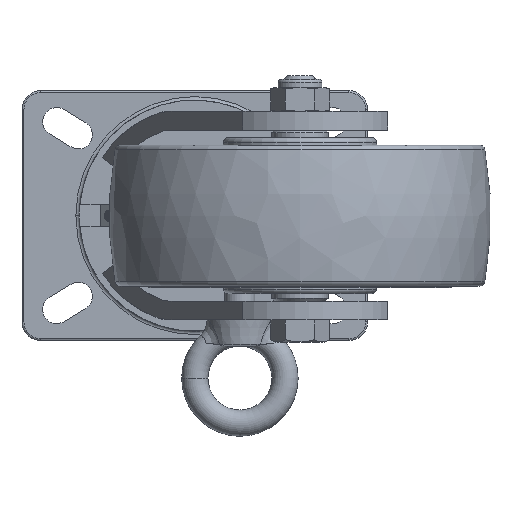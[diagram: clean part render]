
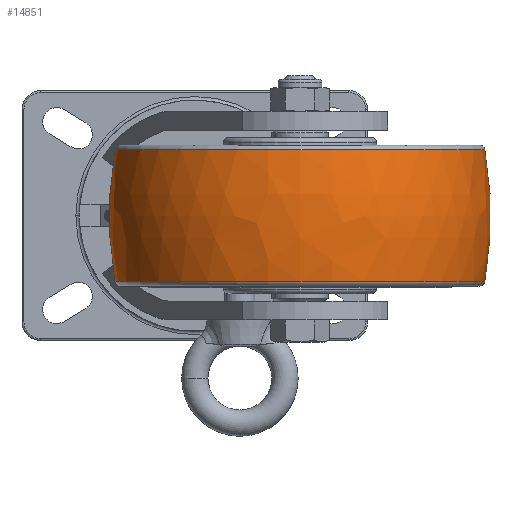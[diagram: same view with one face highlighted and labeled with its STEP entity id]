
A CAD part, front view. The second image highlights one B-rep face of the part: STEP entity #14851.
In plain terms, the highlighted free-form (B-spline) face has degree [3, 3] with [7, 4] control points.
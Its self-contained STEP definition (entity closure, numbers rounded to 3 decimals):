
#14634=CARTESIAN_POINT('',(0.,-98.5,
-0.001));
#14635=DIRECTION('',(0.,0.,-1.));
#14636=DIRECTION('',(-0.175,0.985,0.));
#14637=AXIS2_PLACEMENT_3D('',#14634,#14635,#14636);
#14649=CARTESIAN_POINT('',(-35.025,0.,0.));
#14650=DIRECTION('',(-1.,0.,0.));
#14651=DIRECTION('',(0.,1.,0.));
#14652=AXIS2_PLACEMENT_3D('',#14649,#14650,#14651);
#14654=CARTESIAN_POINT('',(0.,98.5,
0.001));
#14655=DIRECTION('',(0.,0.,1.));
#14656=DIRECTION('',(-0.175,-0.985,0.));
#14657=AXIS2_PLACEMENT_3D('',#14654,#14655,#14656);
#14659=CARTESIAN_POINT('',(35.025,0.,0.));
#14660=DIRECTION('',(1.,0.,0.));
#14661=DIRECTION('',(0.,-1.,0.));
#14662=AXIS2_PLACEMENT_3D('',#14659,#14660,#14661);
#14723=CARTESIAN_POINT('',(-35.025,98.409,
0.));
#14725=VERTEX_POINT('',#14723);
#14728=CARTESIAN_POINT('',(-35.025,-98.409,0.));
#14729=VERTEX_POINT('',#14728);
#14730=CARTESIAN_POINT('',(35.025,98.409,
0.001));
#14731=VERTEX_POINT('',#14730);
#14732=CARTESIAN_POINT('',(35.025,-98.409,
0.001));
#14733=VERTEX_POINT('',#14732);
#14815=CARTESIAN_POINT('',(-36.411,-97.964,
6.162));
#14816=CARTESIAN_POINT('',(-12.274,-102.424,
6.443));
#14817=CARTESIAN_POINT('',(12.274,-102.424,
6.443));
#14818=CARTESIAN_POINT('',(36.411,-97.964,
6.162));
#14819=CARTESIAN_POINT('',(-36.411,-101.756,
-54.124));
#14820=CARTESIAN_POINT('',(-12.274,-106.389,
-56.588));
#14821=CARTESIAN_POINT('',(12.274,-106.389,
-56.588));
#14822=CARTESIAN_POINT('',(36.411,-101.756,
-54.124));
#14823=CARTESIAN_POINT('',(-36.411,-60.406,
-98.158));
#14824=CARTESIAN_POINT('',(-12.274,-63.156,
-102.627));
#14825=CARTESIAN_POINT('',(12.274,-63.156,
-102.627));
#14826=CARTESIAN_POINT('',(36.411,-60.406,
-98.158));
#14827=CARTESIAN_POINT('',(-36.411,0.,
-98.158));
#14828=CARTESIAN_POINT('',(-12.274,0.,
-102.627));
#14829=CARTESIAN_POINT('',(12.274,0.,
-102.627));
#14830=CARTESIAN_POINT('',(36.411,0.,
-98.158));
#14831=CARTESIAN_POINT('',(-36.411,60.406,
-98.158));
#14832=CARTESIAN_POINT('',(-12.274,63.156,
-102.627));
#14833=CARTESIAN_POINT('',(12.274,63.156,
-102.627));
#14834=CARTESIAN_POINT('',(36.411,60.406,
-98.158));
#14835=CARTESIAN_POINT('',(-36.411,101.756,
-54.124));
#14836=CARTESIAN_POINT('',(-12.274,106.389,
-56.588));
#14837=CARTESIAN_POINT('',(12.274,106.389,
-56.588));
#14838=CARTESIAN_POINT('',(36.411,101.756,
-54.124));
#14839=CARTESIAN_POINT('',(-36.411,97.964,
6.162));
#14840=CARTESIAN_POINT('',(-12.274,102.424,
6.443));
#14841=CARTESIAN_POINT('',(12.274,102.424,6.443));
#14842=CARTESIAN_POINT('',(36.411,97.964,6.162));
#14843=(BOUNDED_SURFACE()B_SPLINE_SURFACE(3,3,((#14815,#14816,#14817,#14818),(
#14819,#14820,#14821,#14822),(#14823,#14824,#14825,#14826),(#14827,#14828,
#14829,#14830),(#14831,#14832,#14833,#14834),(#14835,#14836,#14837,#14838),(
#14839,#14840,#14841,#14842)),.UNSPECIFIED.,.F.,.F.,.F.)B_SPLINE_SURFACE_WITH_KNOTS((4,3,4),(4,4),(0.,1.,2.),(0.,1.),.UNSPECIFIED.)GEOMETRIC_REPRESENTATION_ITEM()RATIONAL_B_SPLINE_SURFACE(((1.197,1.184,
1.184,1.197),(0.945,0.935,
0.935,0.945),(0.945,0.935,
0.935,0.945),(1.197,1.184,
1.184,1.197),(0.945,0.935,
0.935,0.945),(0.945,0.935,
0.935,0.945),(1.197,1.184,
1.184,1.197)))REPRESENTATION_ITEM('')SURFACE());
#14844=ORIENTED_EDGE('',*,*,#14805,.F.);
#14845=ORIENTED_EDGE('',*,*,#14757,.T.);
#14846=ORIENTED_EDGE('',*,*,#14809,.T.);
#14848=ORIENTED_EDGE('',*,*,#14847,.T.);
#14849=EDGE_LOOP('',(#14844,#14845,#14846,#14848));
#14850=FACE_OUTER_BOUND('',#14849,.F.);
#14638=CIRCLE('',#14637,200.);
#14653=CIRCLE('',#14652,98.409);
#14658=CIRCLE('',#14657,200.);
#14663=CIRCLE('',#14662,98.409);
#14757=EDGE_CURVE('',#14725,#14729,#14653,.T.);
#14805=EDGE_CURVE('',#14725,#14731,#14638,.T.);
#14809=EDGE_CURVE('',#14729,#14733,#14658,.T.);
#14847=EDGE_CURVE('',#14733,#14731,#14663,.T.);
#14851=ADVANCED_FACE('',(#14850),#14843,.T.);
